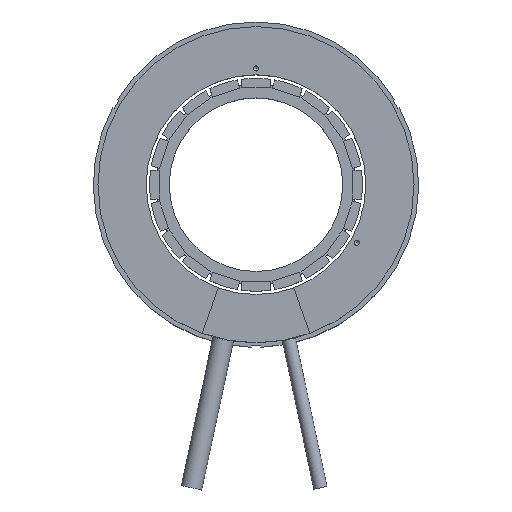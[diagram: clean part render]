
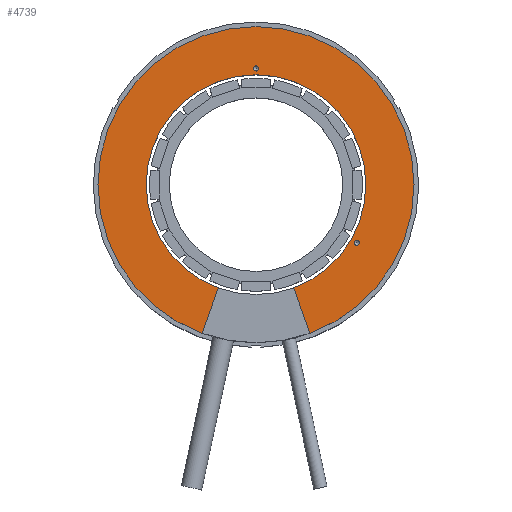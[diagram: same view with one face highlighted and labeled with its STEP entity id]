
A CAD part, top view. The second image highlights one B-rep face of the part: STEP entity #4739.
In plain terms, the highlighted planar face has unit normal (0, 0, 1).
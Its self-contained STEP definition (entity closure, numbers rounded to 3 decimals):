
#105=LINE('',#6867,#703);
#106=LINE('',#6868,#704);
#703=VECTOR('',#5481,1000.);
#704=VECTOR('',#5482,1000.);
#1325=ORIENTED_EDGE('',*,*,#2721,.T.);
#1326=ORIENTED_EDGE('',*,*,#2722,.T.);
#1327=ORIENTED_EDGE('',*,*,#2723,.F.);
#1328=ORIENTED_EDGE('',*,*,#2709,.T.);
#1329=ORIENTED_EDGE('',*,*,#2724,.F.);
#1330=ORIENTED_EDGE('',*,*,#2717,.F.);
#2709=EDGE_CURVE('',#3405,#3406,#3835,.T.);
#2717=EDGE_CURVE('',#3413,#3414,#3839,.T.);
#2721=EDGE_CURVE('',#3417,#3417,#3841,.T.);
#2722=EDGE_CURVE('',#3418,#3418,#3842,.T.);
#2723=EDGE_CURVE('',#3405,#3413,#105,.T.);
#2724=EDGE_CURVE('',#3414,#3406,#106,.T.);
#3405=VERTEX_POINT('',#6817);
#3406=VERTEX_POINT('',#6818);
#3413=VERTEX_POINT('',#6855);
#3414=VERTEX_POINT('',#6856);
#3417=VERTEX_POINT('',#6864);
#3418=VERTEX_POINT('',#6866);
#3835=CIRCLE('',#5040,51.);
#3839=CIRCLE('',#5046,35.45);
#3841=CIRCLE('',#5049,0.825);
#3842=CIRCLE('',#5050,0.825);
#3944=EDGE_LOOP('',(#1325));
#3945=EDGE_LOOP('',(#1326));
#3946=EDGE_LOOP('',(#1327,#1328,#1329,#1330));
#4234=FACE_BOUND('',#3944,.T.);
#4235=FACE_BOUND('',#3945,.T.);
#4236=FACE_BOUND('',#3946,.T.);
#4514=PLANE('',#5048);
#4739=ADVANCED_FACE('',(#4234,#4235,#4236),#4514,.T.);
#5040=AXIS2_PLACEMENT_3D('',#6816,#5455,#5456);
#5046=AXIS2_PLACEMENT_3D('',#6854,#5469,#5470);
#5048=AXIS2_PLACEMENT_3D('',#6862,#5475,#5476);
#5049=AXIS2_PLACEMENT_3D('',#6863,#5477,#5478);
#5050=AXIS2_PLACEMENT_3D('',#6865,#5479,#5480);
#5455=DIRECTION('',(0.,0.,1.));
#5456=DIRECTION('',(1.,0.,0.));
#5469=DIRECTION('',(0.,0.,1.));
#5470=DIRECTION('',(1.,0.,0.));
#5475=DIRECTION('',(0.,0.,1.));
#5476=DIRECTION('',(1.,0.,0.));
#5477=DIRECTION('',(0.,0.,-1.));
#5478=DIRECTION('',(0.,-1.,0.));
#5479=DIRECTION('',(0.,0.,-1.));
#5480=DIRECTION('',(0.,-1.,0.));
#5481=DIRECTION('',(-0.342,0.94,0.));
#5482=DIRECTION('',(-0.342,-0.94,0.));
#6816=CARTESIAN_POINT('',(0.,0.,25.));
#6817=CARTESIAN_POINT('',(17.443,-47.924,25.));
#6818=CARTESIAN_POINT('',(-17.443,-47.924,25.));
#6854=CARTESIAN_POINT('',(0.,0.,25.));
#6855=CARTESIAN_POINT('',(12.125,-33.312,25.));
#6856=CARTESIAN_POINT('',(-12.125,-33.312,25.));
#6862=CARTESIAN_POINT('',(35.45,0.,25.));
#6863=CARTESIAN_POINT('',(0.,37.5,25.));
#6864=CARTESIAN_POINT('',(0.,36.675,25.));
#6865=CARTESIAN_POINT('',(32.476,-18.75,25.));
#6866=CARTESIAN_POINT('',(32.476,-19.575,25.));
#6867=CARTESIAN_POINT('',(12.125,-33.312,25.));
#6868=CARTESIAN_POINT('',(-12.125,-33.312,25.));
